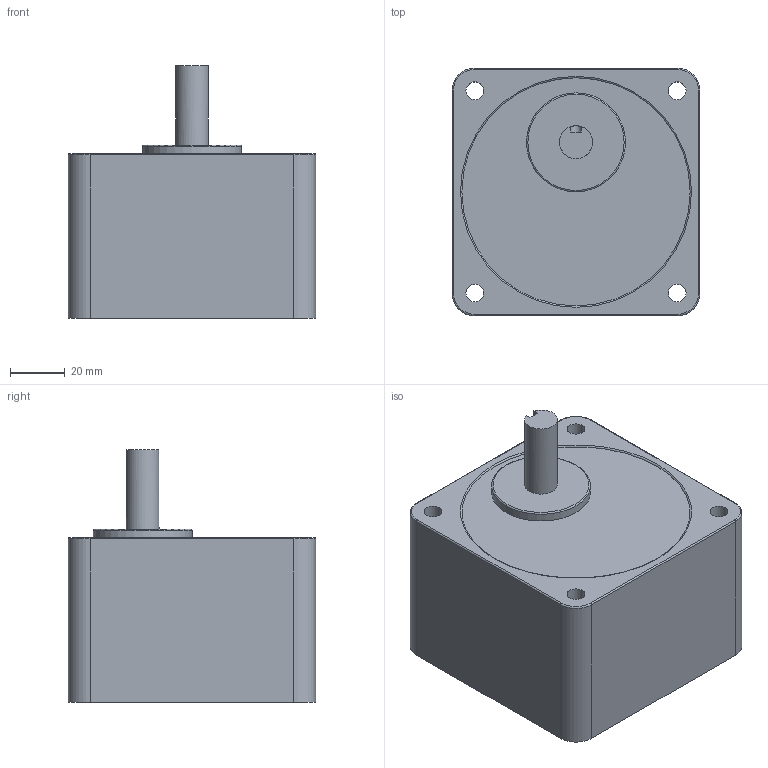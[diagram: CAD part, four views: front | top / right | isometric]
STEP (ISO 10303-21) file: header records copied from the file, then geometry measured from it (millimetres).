
FILE_DESCRIPTION((''),'2;1');
FILE_NAME('E:\2공장-도면\3D\표준형 3D(민규)\step file\감속기\K9G(20~250)B(C).stp','2014-11-13T15:48:12',('AHN'),(''),'Autodesk Inventor 2012','Autodesk Inventor 2012','');
FILE_SCHEMA(('CONFIG_CONTROL_DESIGN'));
Length unit declared in the file: millimetre
Products named in the file (1): K9G(20~250)B(C)
Bounding box: 90 x 90 x 92 mm (x, y, z)
Volume: 478623.2 mm3; surface area: 43059.1 mm2
Topology: 1 solids, 1 shells, 33 faces, 76 edges, 48 vertices
Faces by surface type: cylinder 15, plane 12, torus 6
Full cylindrical faces by diameter (mm): 6.5 x4, 12 x1, 36 x1
Entity records: 949 total; most frequent: DIRECTION 169, CARTESIAN_POINT 166, ORIENTED_EDGE 134, AXIS2_PLACEMENT_3D 70, EDGE_CURVE 67, EDGE_LOOP 52, VERTEX_POINT 47, CIRCLE 36
